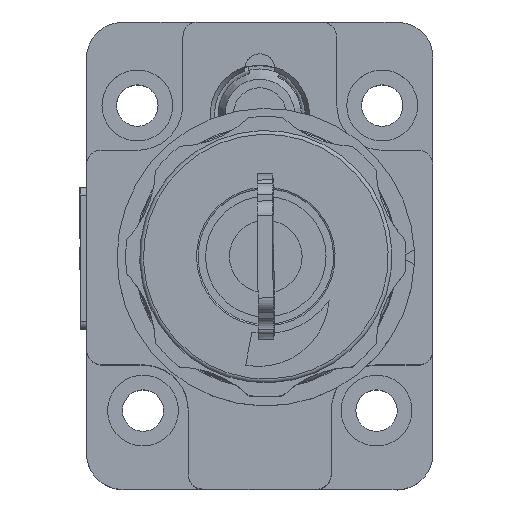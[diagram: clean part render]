
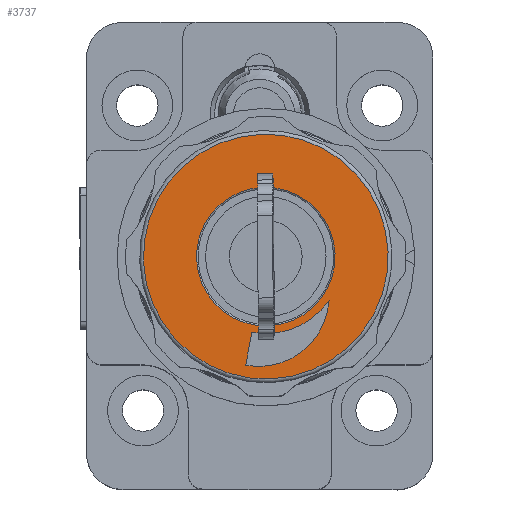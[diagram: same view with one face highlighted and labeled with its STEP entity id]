
A CAD part, top view. The second image highlights one B-rep face of the part: STEP entity #3737.
In plain terms, the highlighted planar face has unit normal (0, 0, 1).
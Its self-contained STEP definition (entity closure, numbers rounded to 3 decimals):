
#1523=PLANE('',#10001);
#1762=FACE_BOUND('',#4874,.T.);
#1763=FACE_BOUND('',#4875,.T.);
#1764=FACE_BOUND('',#4876,.T.);
#2297=LINE('',#26653,#2898);
#2898=VECTOR('',#11890,1.);
#3254=CIRCLE('',#9997,16.25);
#3255=CIRCLE('',#9998,9.2);
#3256=CIRCLE('',#9999,10.222);
#3257=CIRCLE('',#10000,9.379);
#3737=ADVANCED_FACE('',(#1762,#1763,#1764),#1523,.F.);
#4874=EDGE_LOOP('',(#6863));
#4875=EDGE_LOOP('',(#6864));
#4876=EDGE_LOOP('',(#6865,#6866,#6867));
#6863=ORIENTED_EDGE('',*,*,#8951,.T.);
#6864=ORIENTED_EDGE('',*,*,#8952,.T.);
#6865=ORIENTED_EDGE('',*,*,#8953,.F.);
#6866=ORIENTED_EDGE('',*,*,#8954,.F.);
#6867=ORIENTED_EDGE('',*,*,#8955,.F.);
#7884=VERTEX_POINT('',#26650);
#7885=VERTEX_POINT('',#26652);
#7886=VERTEX_POINT('',#26654);
#7887=VERTEX_POINT('',#26655);
#7888=VERTEX_POINT('',#26657);
#8951=EDGE_CURVE('',#7884,#7884,#3254,.T.);
#8952=EDGE_CURVE('',#7885,#7885,#3255,.T.);
#8953=EDGE_CURVE('',#7886,#7887,#2297,.T.);
#8954=EDGE_CURVE('',#7888,#7886,#3256,.T.);
#8955=EDGE_CURVE('',#7887,#7888,#3257,.T.);
#9997=AXIS2_PLACEMENT_3D('',#26649,#11886,#11887);
#9998=AXIS2_PLACEMENT_3D('',#26651,#11888,#11889);
#9999=AXIS2_PLACEMENT_3D('',#26656,#11891,#11892);
#10000=AXIS2_PLACEMENT_3D('',#26658,#11893,#11894);
#10001=AXIS2_PLACEMENT_3D('',#26659,#11895,#11896);
#11886=DIRECTION('',(0.,0.,1.));
#11887=DIRECTION('',(-0.383,0.924,0.));
#11888=DIRECTION('',(0.,0.,-1.));
#11889=DIRECTION('',(-0.383,0.924,0.));
#11890=DIRECTION('',(-0.182,-0.983,0.));
#11891=DIRECTION('',(0.,0.,-1.));
#11892=DIRECTION('',(0.924,0.383,0.));
#11893=DIRECTION('',(0.,0.,1.));
#11894=DIRECTION('',(0.924,0.383,0.));
#11895=DIRECTION('',(0.,0.,-1.));
#11896=DIRECTION('',(0.383,-0.924,0.));
#26649=CARTESIAN_POINT('',(62.089,74.876,132.7));
#26650=CARTESIAN_POINT('',(55.865,89.886,132.7));
#26651=CARTESIAN_POINT('',(62.089,74.876,132.7));
#26652=CARTESIAN_POINT('',(58.565,83.374,132.7));
#26653=CARTESIAN_POINT('',(60.23,64.824,132.7));
#26654=CARTESIAN_POINT('',(60.23,64.824,132.7));
#26655=CARTESIAN_POINT('',(59.42,60.443,132.7));
#26656=CARTESIAN_POINT('',(62.089,74.876,132.7));
#26657=CARTESIAN_POINT('',(70.484,69.043,132.7));
#26658=CARTESIAN_POINT('',(61.126,69.666,132.7));
#26659=CARTESIAN_POINT('',(53.776,71.428,132.7));
